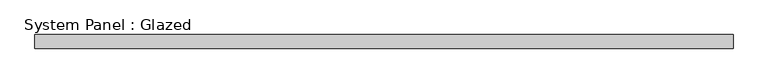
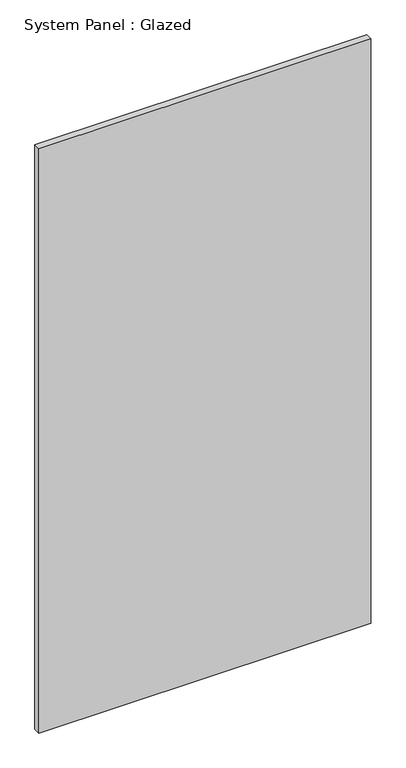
"""IFC4 building model written with IfcOpenShell, lengths in millimetres: plate geometry, System Panel : Glazed."""

from ifc_helpers import new_model, si_unit, origin, origin_with_axes, place, context, project, spatial, polyline, outline, extrude, source, transform, mapped, element, save


def system_panel_glazed_98a737fe(model_context):
    return source(origin(), model_context, "Body", "SweptSolid", [
        extrude(outline(polyline([(629.7083334, -44.45), (-629.7083334, -44.45), (-629.7083334, -19.05), (629.7083334, -19.05), (629.7083334, -44.45)])), origin_with_axes(), (0.0, 0.0, 1.0), 2343.15),
    ])


if __name__ == "__main__":
    model = new_model("IFC4")
    model_context = context("Model", 3, world=origin())
    ifc_project = project(units=[si_unit("LENGTHUNIT", "METRE", prefix="MILLI")], contexts=[model_context])
    site = spatial("IfcSite", under=ifc_project)
    building = spatial("IfcBuilding", under=site)
    placement = place(None, origin())
    system_panel_glazed_shape = system_panel_glazed_98a737fe(model_context)
    element("IfcPlate", 1, ObjectType="System Panel : Glazed", at=placement, inside=building, context=model_context, shape_type="MappedRepresentation", body=[
        mapped(system_panel_glazed_shape, transform((0.0, 0.0, 0.0), x_axis=(1.0, 0.0, 0.0), y_axis=(0.0, 1.0, 0.0), z_axis=(0.0, 0.0, 1.0))),
    ])
    save(model, "model.ifc")
